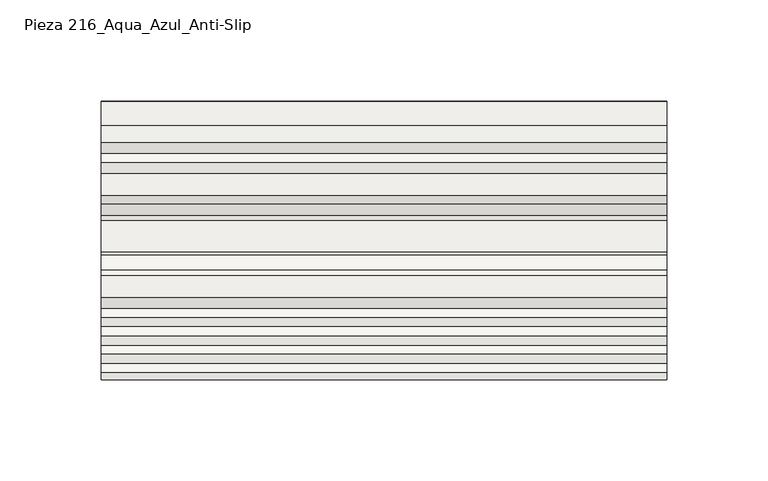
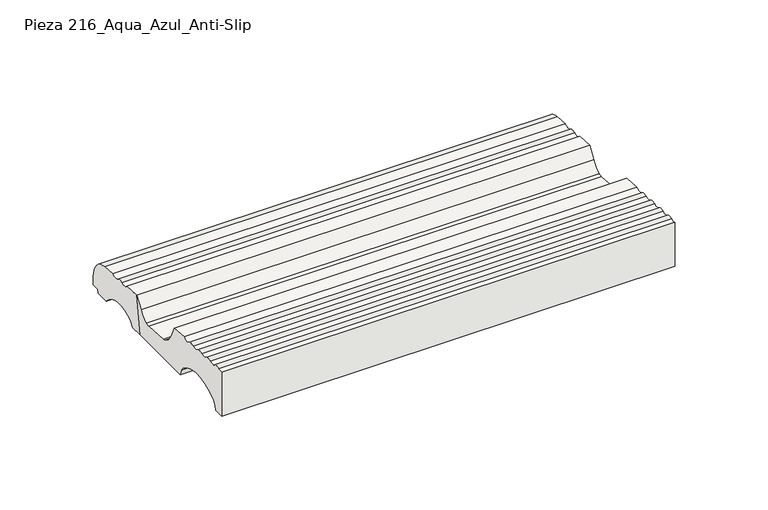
"""IFC4 building model written with IfcOpenShell, lengths in millimetres: slab geometry, ROSA GRES_216 (profundidad) : Pieza 216_Aqua_Azul_Anti-Slip."""

import ifcopenshell
import ifcopenshell.guid

model = None  # the IFC model being written
_history = None  # IfcOwnerHistory: only IFC2X3 demands one
_inside = {}  # id of a spatial element -> (the spatial element, [elements in it])
_under = {}  # id of a project, library or spatial element -> (it, [spatial elements below it])
_declared = {}  # id of a project -> (the project, [libraries it declares])
_typed = {}  # id of a type object -> (the type object, [elements of that type])
_made_of = {}  # id of a material, layer set ... -> (it, [elements and type objects made of it])


def new_model(schema):
    """Start an empty IFC model of exactly this schema.

    Asked for "IFC4X3", IfcOpenShell would pick the latest addendum, in which some entities
    have other attributes; the version numbers below select the first issue.
    IFC2X3 requires an IfcOwnerHistory on every rooted entity: one is made here for all.
    """
    global model, _history
    if schema == "IFC4X3":
        model = ifcopenshell.file(schema_version=(4, 3, 0, 0))
    else:
        model = ifcopenshell.file(schema=schema)
    _inside.clear()
    _under.clear()
    _declared.clear()
    _typed.clear()
    _made_of.clear()
    _history = None
    if model.schema == "IFC2X3":
        org = make("IfcOrganization", Name="unknown")
        user = make(
            "IfcPersonAndOrganization",
            ThePerson=make("IfcPerson", FamilyName="unknown"),
            TheOrganization=org,
        )
        app = make(
            "IfcApplication",
            ApplicationDeveloper=org,
            Version="unknown",
            ApplicationFullName="unknown",
            ApplicationIdentifier="unknown",
        )
        _history = make(
            "IfcOwnerHistory",
            OwningUser=user,
            OwningApplication=app,
            ChangeAction="ADDED",
            CreationDate=0,
        )
    return model


def make(cls, **values):
    """One entity of the class cls with the attributes given. An attribute that is None is left unset."""
    return model.create_entity(
        cls, **{name: value for name, value in values.items() if value is not None}
    )


def rooted(cls, **values):
    """An entity with a GlobalId (a new one), such as an element, a storey or a relation."""
    return make(cls, GlobalId=ifcopenshell.guid.new(), OwnerHistory=_history, **values)


def si_unit(unit_type, name, prefix=None):
    """IfcSIUnit, for example si_unit("LENGTHUNIT", "METRE", prefix="MILLI")."""
    return make("IfcSIUnit", UnitType=unit_type, Prefix=prefix, Name=name)


def assignment(units):
    """IfcUnitAssignment: the units of a project."""
    return None if units is None else make("IfcUnitAssignment", Units=units)


def point(xyz):
    """IfcCartesianPoint."""
    return None if xyz is None else make("IfcCartesianPoint", Coordinates=xyz)


def direction(xyz):
    """IfcDirection."""
    return None if xyz is None else make("IfcDirection", DirectionRatios=xyz)


def frame(location, z_axis=None, x_axis=None):
    """IfcAxis2Placement3D, a coordinate frame: its origin and axes. An axis left out is left unset."""
    return make(
        "IfcAxis2Placement3D",
        Location=point(location),
        Axis=direction(z_axis),
        RefDirection=direction(x_axis),
    )


def frame_2d(location, x_axis=None):
    """IfcAxis2Placement2D, a coordinate frame in the plane: its origin and x axis."""
    return make(
        "IfcAxis2Placement2D", Location=point(location), RefDirection=direction(x_axis)
    )


def origin():
    """The frame at (0, 0, 0) with its axes left unset."""
    return frame((0.0, 0.0, 0.0))


def place(relative_to, where):
    """IfcLocalPlacement: puts the frame where relative to a parent placement (None: the world)."""
    return make(
        "IfcLocalPlacement", PlacementRelTo=relative_to, RelativePlacement=where
    )


def context(
    kind, dimensions, precision=None, world=None, true_north=None, identifier=None
):
    """IfcGeometricRepresentationContext, for example the 3D "Model" context."""
    return make(
        "IfcGeometricRepresentationContext",
        ContextIdentifier=identifier,
        ContextType=kind,
        CoordinateSpaceDimension=dimensions,
        Precision=precision,
        WorldCoordinateSystem=world,
        TrueNorth=true_north,
    )


def project(units=None, contexts=None):
    """IfcProject with its units and contexts."""
    return rooted(
        "IfcProject",
        Name="project",
        RepresentationContexts=contexts,
        UnitsInContext=assignment(units),
    )


def spatial(cls, under=None, at=None, **own):
    """A site, building, storey or space (cls), placed at a placement, below another one or the project."""
    s = rooted(cls, ObjectPlacement=at, **own)
    if under is not None:
        _under.setdefault(under.id(), (under, []))[1].append(s)
    return s


def polyline(points):
    """IfcPolyline through the points."""
    return make("IfcPolyline", Points=[point(p) for p in points])


def circle_curve(where, radius):
    """IfcCircle in the frame where."""
    return make("IfcCircle", Position=where, Radius=radius)


def trimmed(basis, trim1, trim2, sense, master):
    """IfcTrimmedCurve: the piece of a basis curve between two trims."""
    return make(
        "IfcTrimmedCurve",
        BasisCurve=basis,
        Trim1=trim1,
        Trim2=trim2,
        SenseAgreement=sense,
        MasterRepresentation=master,
    )


def segment(curve, same_sense, transition):
    """IfcCompositeCurveSegment."""
    return make(
        "IfcCompositeCurveSegment",
        Transition=transition,
        SameSense=same_sense,
        ParentCurve=curve,
    )


def composite_curve(segments, self_intersect=None):
    """IfcCompositeCurve: segments joined end to end."""
    return make("IfcCompositeCurve", Segments=segments, SelfIntersect=self_intersect)


def outline(outer, holes=None, kind="AREA"):
    """IfcArbitraryClosedProfileDef: a profile drawn as a closed curve; with holes, ...WithVoids."""
    if holes is None:
        return make("IfcArbitraryClosedProfileDef", ProfileType=kind, OuterCurve=outer)
    return make(
        "IfcArbitraryProfileDefWithVoids",
        ProfileType=kind,
        OuterCurve=outer,
        InnerCurves=holes,
    )


def extrude(swept, where, along, depth):
    """IfcExtrudedAreaSolid: the profile swept, set in the frame where, extruded along a direction by depth."""
    return make(
        "IfcExtrudedAreaSolid",
        SweptArea=swept,
        Position=where,
        ExtrudedDirection=direction(along),
        Depth=depth,
    )


def shape(context_of_items, identifier, shape_type, items):
    """IfcShapeRepresentation: the items that make up one representation, for example the "Body"."""
    return make(
        "IfcShapeRepresentation",
        ContextOfItems=context_of_items,
        RepresentationIdentifier=identifier,
        RepresentationType=shape_type,
        Items=items,
    )


def source(mapping_origin, context_of_items, identifier, shape_type, items):
    """IfcRepresentationMap: a shape defined once, which mapped items show again and again."""
    return make(
        "IfcRepresentationMap",
        MappingOrigin=mapping_origin,
        MappedRepresentation=shape(context_of_items, identifier, shape_type, items),
    )


def transform(
    local_origin,
    x_axis=None,
    y_axis=None,
    z_axis=None,
    scale=None,
    scale2=None,
    scale3=None,
    uniform=True,
):
    """IfcCartesianTransformationOperator3D, or its non-uniform kind. x_axis, y_axis, z_axis: its Axis1, 2, 3."""
    if uniform:
        return make(
            "IfcCartesianTransformationOperator3D",
            Axis1=direction(x_axis),
            Axis2=direction(y_axis),
            LocalOrigin=point(local_origin),
            Scale=scale,
            Axis3=direction(z_axis),
        )
    return make(
        "IfcCartesianTransformationOperator3DnonUniform",
        Axis1=direction(x_axis),
        Axis2=direction(y_axis),
        LocalOrigin=point(local_origin),
        Scale=scale,
        Axis3=direction(z_axis),
        Scale2=scale2,
        Scale3=scale3,
    )


def mapped(mapping_source, mapping_target):
    """IfcMappedItem: shows the shape of a source again, moved by a transform."""
    return make(
        "IfcMappedItem", MappingSource=mapping_source, MappingTarget=mapping_target
    )


def made_of(thing, what):
    """Note that an element or type object is made of a material, layer set ...; save() writes the relation."""
    if what is not None:
        _made_of.setdefault(what.id(), (what, []))[1].append(thing)
    return thing


def element(
    cls,
    number,
    at=None,
    inside=None,
    cuts=None,
    type_object=None,
    material=None,
    context=None,
    identifier="Body",
    shape_type=None,
    held_by="IfcProductDefinitionShape",
    body=None,
    shapes=None,
    **own,
):
    """One element of the class cls, such as IfcWall. Its Tag is "e" and its number.

    at: its placement. inside: the storey or other place that contains it. cuts: it is an
    opening in that element (IfcRelVoidsElement). A single representation is given by context,
    identifier, shape_type and body (its items); several are given by shapes. held_by: the class
    of the entity that holds the representations. save() writes the other relations.
    """
    e = rooted(cls, Tag="e%d" % number, ObjectPlacement=at, **own)
    if body is not None:
        shapes = [shape(context, identifier, shape_type, body)]
    if shapes is not None:
        e.Representation = make(held_by, Representations=shapes)
    if inside is not None:
        _inside.setdefault(inside.id(), (inside, []))[1].append(e)
    if cuts is not None:
        rooted(
            "IfcRelVoidsElement", RelatingBuildingElement=cuts, RelatedOpeningElement=e
        )
    if type_object is not None:
        _typed.setdefault(type_object.id(), (type_object, []))[1].append(e)
    return made_of(e, material)


def aggregate(whole, parts):
    """IfcRelAggregates: a whole, such as a stair, and the parts it consists of."""
    return rooted("IfcRelAggregates", RelatingObject=whole, RelatedObjects=parts)


def save(model, path):
    """Write the relations noted so far, then the file.

    IfcRelAggregates (storeys below a building ...), IfcRelContainedInSpatialStructure (elements
    in a storey), IfcRelDefinesByType, IfcRelAssociatesMaterial and IfcRelDeclares: one each for
    every whole, place, type object, material and project.
    """
    for whole, parts in _under.values():
        aggregate(whole, parts)
    for where, things in _inside.values():
        rooted(
            "IfcRelContainedInSpatialStructure",
            RelatedElements=things,
            RelatingStructure=where,
        )
    for kind, things in _typed.values():
        rooted("IfcRelDefinesByType", RelatedObjects=things, RelatingType=kind)
    for what, things in _made_of.values():
        rooted("IfcRelAssociatesMaterial", RelatedObjects=things, RelatingMaterial=what)
    for by, libraries in _declared.values():
        rooted("IfcRelDeclares", RelatingContext=by, RelatedDefinitions=libraries)
    model.write(path)


def pieza_216_aqua_azul_anti_slip_6dfd3447(model_context):
    return source(origin(), model_context, "Body", "SweptSolid", [
        extrude(outline(composite_curve([segment(polyline([(-131.5147991, 190.298667), (-138.1, 190.2960177), (-138.1, 219.0147196)]), True, "CONTINUOUS"), segment(trimmed(circle_curve(frame_2d((-136.7923445, 222.9402815)), 4.1376321), [point((-138.1, 219.0147196))], [point((-134.7472425, 219.3433999))], True, "CARTESIAN"), True, "CONTINUOUS"), segment(trimmed(circle_curve(frame_2d((-132.7021405, 215.7465184)), 4.1376321), [point((-134.7472425, 219.3433999))], [point((-130.2019448, 219.0433382))], False, "CARTESIAN"), True, "CONTINUOUS"), segment(trimmed(circle_curve(frame_2d((-127.7017492, 222.3401581)), 4.1376321), [point((-130.2019448, 219.0433382))], [point((-125.6566472, 218.7432765))], True, "CARTESIAN"), True, "CONTINUOUS"), segment(trimmed(circle_curve(frame_2d((-123.6115451, 215.1463949)), 4.1376321), [point((-125.6566472, 218.7432765))], [point((-121.1113495, 218.4432148))], False, "CARTESIAN"), True, "CONTINUOUS"), segment(trimmed(circle_curve(frame_2d((-118.6111539, 221.7400347)), 4.1376321), [point((-121.1113495, 218.4432148))], [point((-116.5660518, 218.1431531))], True, "CARTESIAN"), True, "CONTINUOUS"), segment(trimmed(circle_curve(frame_2d((-114.5209498, 214.5462715)), 4.1376321), [point((-116.5660518, 218.1431531))], [point((-112.0207542, 217.8430914))], False, "CARTESIAN"), True, "CONTINUOUS"), segment(trimmed(circle_curve(frame_2d((-109.5205585, 221.1399112)), 4.1376321), [point((-112.0207542, 217.8430914))], [point((-107.4754565, 217.5430296))], True, "CARTESIAN"), True, "CONTINUOUS"), segment(trimmed(circle_curve(frame_2d((-105.4303545, 213.9461481)), 4.1376321), [point((-107.4754565, 217.5430296))], [point((-102.9301588, 217.2429679))], False, "CARTESIAN"), True, "CONTINUOUS"), segment(trimmed(circle_curve(frame_2d((-100.4299632, 220.5397878)), 4.1376321), [point((-102.9301588, 217.2429679))], [point((-97.5473566, 217.5715259))], True, "CARTESIAN"), True, "CONTINUOUS"), segment(polyline([(-97.5473566, 217.5715259), (-86.7854822, 216.8536554), (-84.083877, 210.4125036)]), True, "CONTINUOUS"), segment(trimmed(circle_curve(frame_2d((-70.8098694, 215.980006)), 14.394317), [point((-84.083877, 210.4125036))], [point((-76.5779698, 202.7919289))], True, "CARTESIAN"), True, "CONTINUOUS"), segment(trimmed(circle_curve(frame_2d((-74.7526105, 206.9653964)), 4.5551913), [point((-76.5779698, 202.7919289))], [point((-75.0526722, 202.4200987))], True, "CARTESIAN"), True, "CONTINUOUS"), segment(polyline([(-75.0526722, 202.4200987), (-59.5105698, 201.3940735)]), True, "CONTINUOUS"), segment(trimmed(circle_curve(frame_2d((-59.2105081, 205.9393712)), 4.5551913), [point((-59.5105698, 201.3940735))], [point((-57.0972438, 201.904042))], True, "CARTESIAN"), True, "CONTINUOUS"), segment(trimmed(circle_curve(frame_2d((-63.7751184, 214.6556047)), 14.394317), [point((-57.0972438, 201.904042))], [point((-51.3482048, 207.3914339))], True, "CARTESIAN"), True, "CONTINUOUS"), segment(polyline([(-51.3482048, 207.3914339), (-47.02226, 214.2649666), (-50.2802779, 190.3140695), (-93.2293566, 190.3140695), (-94.4638044, 193.8901119)]), True, "CONTINUOUS"), segment(trimmed(circle_curve(frame_2d((-99.6308378, 192.1064549)), 5.4662296), [point((-94.4638044, 193.8901119))], [point((-96.2307788, 196.386556))], True, "CARTESIAN"), True, "CONTINUOUS"), segment(trimmed(circle_curve(frame_2d((-112.2317578, 176.2440208)), 25.7245612), [point((-96.2307788, 196.386556))], [point((-129.2498705, 195.5348707))], True, "CARTESIAN"), True, "CONTINUOUS"), segment(trimmed(circle_curve(frame_2d((-125.6336801, 191.4357448)), 5.4662296), [point((-129.2498705, 195.5348707))], [point((-130.9555618, 192.6836396))], True, "CARTESIAN"), True, "CONTINUOUS"), segment(polyline([(-130.9555618, 192.6836396), (-131.5147991, 190.298667)]), True, "CONTINUOUS")], self_intersect=False)), frame((0.0, 0.0, 0.0), z_axis=(1.0, 0.0, 0.0), x_axis=(0.0, 1.0, 0.0)), (0.0, 0.0, 1.0), 280.0265886),
        extrude(outline(composite_curve([segment(polyline([(-50.2779274, 190.3313491), (-47.02226, 214.2649666), (-36.1886491, 213.5497765)]), True, "CONTINUOUS"), segment(trimmed(circle_curve(frame_2d((-32.9401407, 216.1124298)), 4.1376321), [point((-36.1886491, 213.5497765))], [point((-30.8950387, 212.5155483))], True, "CARTESIAN"), True, "CONTINUOUS"), segment(trimmed(circle_curve(frame_2d((-28.8499366, 208.9186667)), 4.1376321), [point((-30.8950387, 212.5155483))], [point((-26.349741, 212.2154865))], False, "CARTESIAN"), True, "CONTINUOUS"), segment(trimmed(circle_curve(frame_2d((-23.8495454, 215.5123064)), 4.1376321), [point((-26.349741, 212.2154865))], [point((-20.9679225, 212.5430894))], True, "CARTESIAN"), True, "CONTINUOUS"), segment(polyline([(-20.9679225, 212.5430894), (-12.4148911, 211.9892969)]), True, "CONTINUOUS"), segment(trimmed(circle_curve(frame_2d((-13.9356113, 198.4086002)), 13.6655739), [point((-12.4148911, 211.9892969))], [point((-0.270618, 198.2826277))], False, "CARTESIAN"), True, "CONTINUOUS"), segment(polyline([(-0.270618, 198.2826277), (-0.2589396, 192.8448483), (-5.1617818, 192.8343188), (-5.4229579, 190.3493946), (-14.2436688, 190.3458459)]), True, "CONTINUOUS"), segment(trimmed(circle_curve(frame_2d((-28.4466156, 179.1524611)), 18.0835716), [point((-14.2436688, 190.3458459))], [point((-42.6585641, 190.3344144))], True, "CARTESIAN"), True, "CONTINUOUS"), segment(polyline([(-42.6585641, 190.3344144), (-50.2779274, 190.3313491)]), True, "CONTINUOUS")], self_intersect=False)), frame((0.0, 0.0, 0.0), z_axis=(1.0, 0.0, 0.0), x_axis=(0.0, 1.0, 0.0)), (0.0, 0.0, 1.0), 280.0265886),
    ])


if __name__ == "__main__":
    model = new_model("IFC4")
    model_context = context("Model", 3, world=origin())
    ifc_project = project(units=[si_unit("LENGTHUNIT", "METRE", prefix="MILLI")], contexts=[model_context])
    site = spatial("IfcSite", under=ifc_project)
    building = spatial("IfcBuilding", under=site)
    placement = place(None, origin())
    pieza_216_aqua_azul_anti_slip_shape = pieza_216_aqua_azul_anti_slip_6dfd3447(model_context)
    element("IfcSlab", 1, ObjectType="ROSA GRES_216 (profundidad) : Pieza 216_Aqua_Azul_Anti-Slip", at=placement, inside=building, context=model_context, shape_type="MappedRepresentation", body=[
        mapped(pieza_216_aqua_azul_anti_slip_shape, transform((0.0, 0.0, 0.0), x_axis=(1.0, 0.0, 0.0), y_axis=(0.0, 1.0, 0.0), z_axis=(0.0, 0.0, 1.0))),
    ])
    save(model, "model.ifc")
